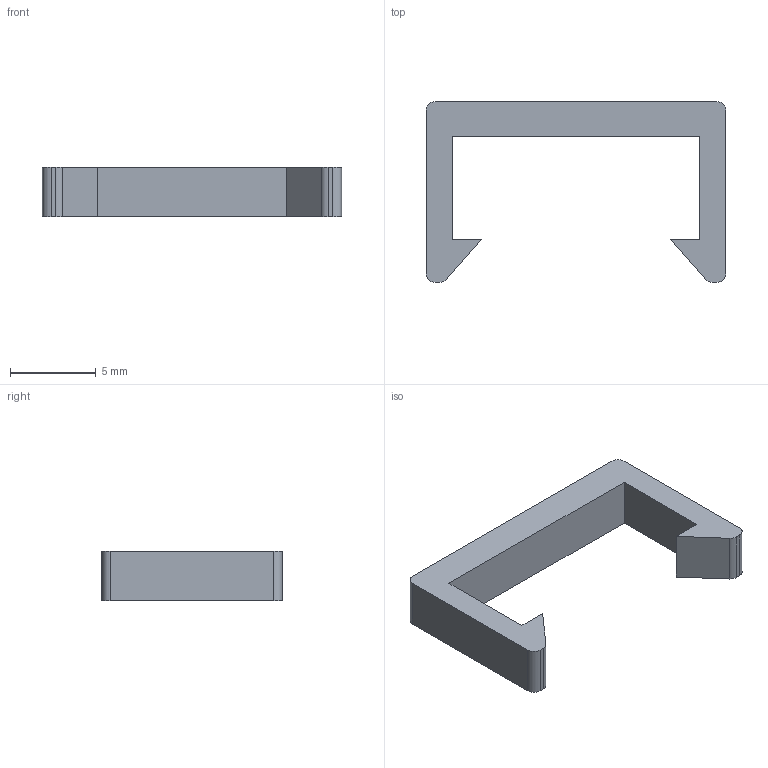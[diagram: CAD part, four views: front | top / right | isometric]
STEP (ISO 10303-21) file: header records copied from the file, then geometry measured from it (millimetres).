
FILE_DESCRIPTION(/* description */ ('STEP AP242 Edition 2','CAx-IF Rec.Pracs.---Representation and Presentation of Product Manufacturing Information (PMI)---4.0---2014-10-13','CAx-IF Rec.Pracs.---3D Tessellated Geometry---0.4---2014-09-14','2;1','CAx-IF Rec.Pracs.---User Defined Attributes---1.5---2016-08-15'),/* implementation_level */ '2;1');
FILE_NAME(/* name */ 'HIRO posing assembly - Part 1 (13)',/* time_stamp */ '2026-11-04T05:15:21Z',/* author */ (''),/* organization */ (''),/* preprocessor_version */ 'ST-DEVELOPER v20',/* originating_system */ 'ONSHAPE BY PTC INC, 1.223',/* authorisation */ ' ');
FILE_SCHEMA (('AP242_MANAGED_MODEL_BASED_3D_ENGINEERING_MIM_LF { 1 0 10303 442 3 1 4 }'));
Length unit declared in the file: metre
Products named in the file (1): Part 1
Bounding box: 17.4 x 10.5 x 2.9 mm (x, y, z)
Volume: 182.9 mm3; surface area: 346.4 mm2
Topology: 1 solids, 1 shells, 20 faces, 54 edges, 36 vertices
Faces by surface type: plane 14, cylinder 6
Entity records: 652 total; most frequent: CARTESIAN_POINT 111, ORIENTED_EDGE 108, DIRECTION 108, EDGE_CURVE 54, LINE 42, VECTOR 42, VERTEX_POINT 36, AXIS2_PLACEMENT_3D 33
